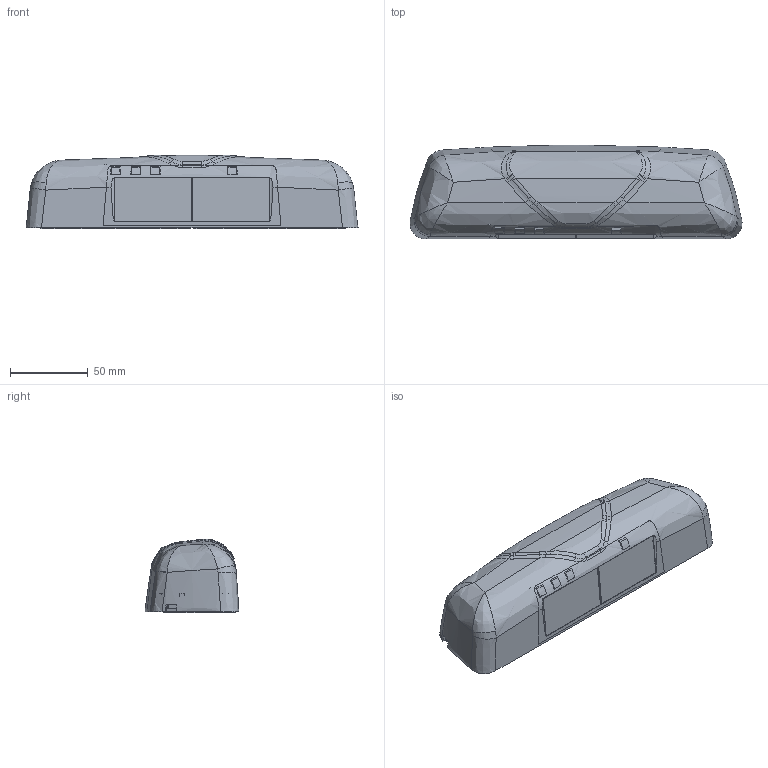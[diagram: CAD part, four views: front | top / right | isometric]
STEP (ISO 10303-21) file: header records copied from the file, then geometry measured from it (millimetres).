
FILE_DESCRIPTION (( 'STEP AP203' ), '1' );
FILE_NAME ('PrimeScan B bk 260509.STEP', '2022-04-11T12:20:42', ( '' ), ( '' ), 'SwSTEP 2.0', 'SolidWorks 2017', '' );
FILE_SCHEMA (( 'CONFIG_CONTROL_DESIGN' ));
Length unit declared in the file: millimetre
Products named in the file (6): 289110_Standard; 249642_Standard; 288523_Standard; 288521_Standard; PrimeScan B bk 260509; 256417_Standard
Assembly tree (6 placements, depth 3):
  PrimeScan B bk 260509
    289110_Standard
    288523_Standard
      288521_Standard
      256417_Standard
      249642_Standard  x2
Bounding box: 213.19 x 60.28 x 47.03 mm (x, y, z)
Volume: 90945.1 mm3; surface area: 112257.2 mm2
Topology: 5 solids, 5 shells, 2146 faces, 6005 edges, 3935 vertices
Faces by surface type: plane 1494, bspline 375, cylinder 218, cone 25, torus 25, sphere 9
Entity records: 81407 total; most frequent: CARTESIAN_POINT 30121, ORIENTED_EDGE 11866, DIRECTION 8460, EDGE_CURVE 5933, LINE 4046, VECTOR 4046, VERTEX_POINT 3895, EDGE_LOOP 2220
